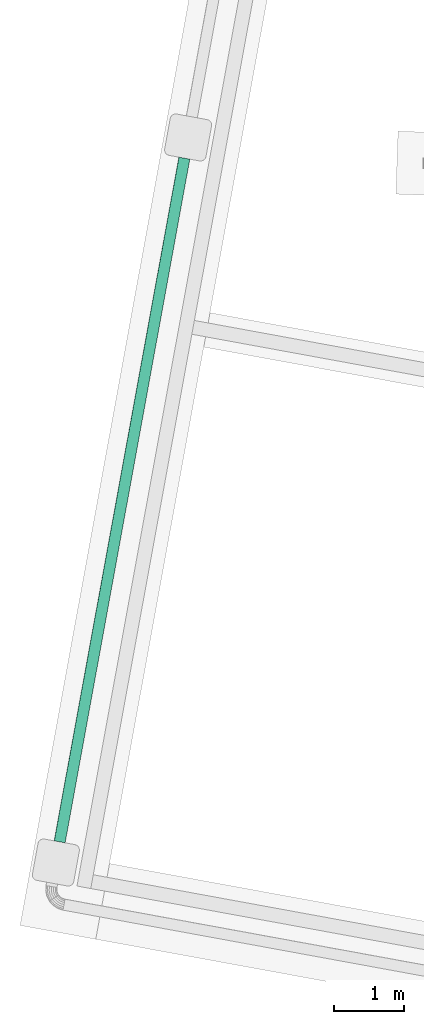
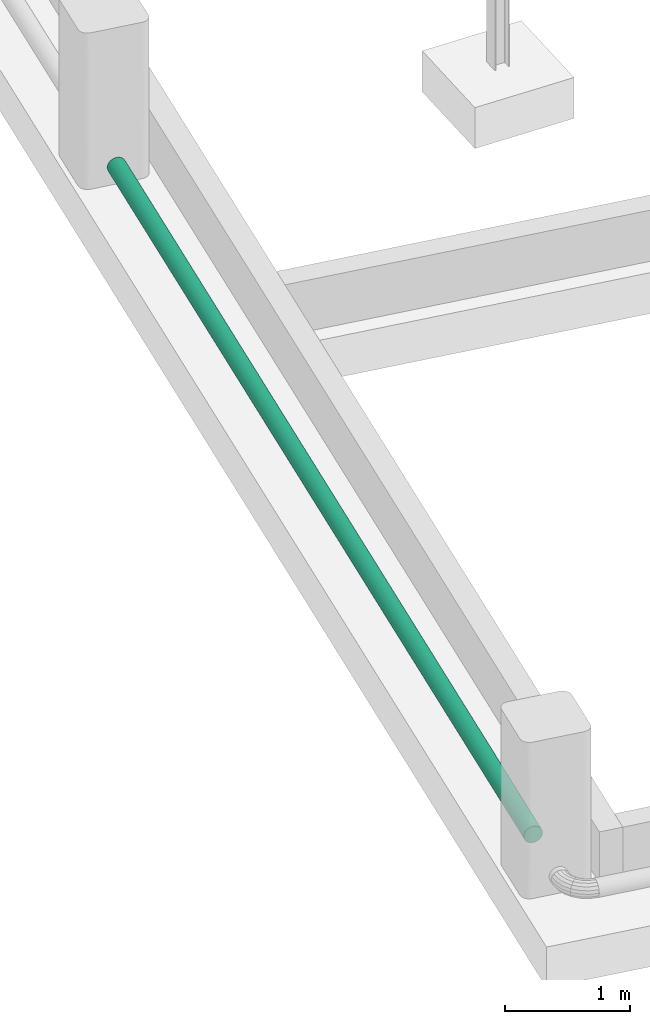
# One storey, part 8 of 17: 1 flow segment.
"""IFC2X3 building model written with IfcOpenShell, lengths in centimetres."""

from ifc_helpers import new_model, entity, si_unit, converted_unit, derived_unit, direction, frame, frame_2d, origin, place, context, subcontext, project, spatial, circle, extrude, type_object, element, save


model = new_model("IFC2X3")

# Units and contexts
model_context = context("Model", 3, precision=0.001, world=origin(), true_north=direction((6.12303176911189e-17, 1.0)))
body_context = subcontext(model_context, "Body", "Model", "MODEL_VIEW")
ifc_project = project(units=[si_unit("LENGTHUNIT", "METRE", prefix="CENTI"), si_unit("AREAUNIT", "SQUARE_METRE"), si_unit("VOLUMEUNIT", "CUBIC_METRE"), converted_unit("PLANEANGLEUNIT", "DEGREE", entity("IfcRatioMeasure", 0.0174532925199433), si_unit("PLANEANGLEUNIT", "RADIAN"), dimensions=[0, 0, 0, 0, 0, 0, 0]), si_unit("MASSUNIT", "GRAM", prefix="KILO"), derived_unit("MASSDENSITYUNIT", [(si_unit("MASSUNIT", "GRAM", prefix="KILO"), 1), (si_unit("LENGTHUNIT", "METRE"), -3)]), si_unit("TIMEUNIT", "SECOND"), si_unit("FREQUENCYUNIT", "HERTZ"), si_unit("THERMODYNAMICTEMPERATUREUNIT", "DEGREE_CELSIUS"), derived_unit("THERMALTRANSMITTANCEUNIT", [(si_unit("MASSUNIT", "GRAM", prefix="KILO"), 1), (si_unit("THERMODYNAMICTEMPERATUREUNIT", "KELVIN"), -1), (si_unit("TIMEUNIT", "SECOND"), -3)]), derived_unit("VOLUMETRICFLOWRATEUNIT", [(si_unit("LENGTHUNIT", "METRE"), 3), (si_unit("TIMEUNIT", "SECOND"), -1)]), si_unit("ELECTRICCURRENTUNIT", "AMPERE"), si_unit("ELECTRICVOLTAGEUNIT", "VOLT"), si_unit("POWERUNIT", "WATT"), si_unit("FORCEUNIT", "NEWTON", prefix="KILO"), si_unit("ILLUMINANCEUNIT", "LUX"), si_unit("LUMINOUSFLUXUNIT", "LUMEN"), si_unit("LUMINOUSINTENSITYUNIT", "CANDELA"), derived_unit("USERDEFINED", [(si_unit("MASSUNIT", "GRAM", prefix="KILO"), -1), (si_unit("LENGTHUNIT", "METRE"), -2), (si_unit("TIMEUNIT", "SECOND"), 3), (si_unit("LUMINOUSFLUXUNIT", "LUMEN"), 1)]), derived_unit("LINEARVELOCITYUNIT", [(si_unit("LENGTHUNIT", "METRE"), 1), (si_unit("TIMEUNIT", "SECOND"), -1)]), si_unit("PRESSUREUNIT", "PASCAL"), derived_unit("USERDEFINED", [(si_unit("LENGTHUNIT", "METRE"), -2), (si_unit("MASSUNIT", "GRAM", prefix="KILO"), 1), (si_unit("TIMEUNIT", "SECOND"), -2)])], contexts=[model_context])

# Site, building, storey
site_placement = place(None, frame((2611.71187422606, 13650.4058644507, 0.0), z_axis=(0.0, 0.0, 1.0), x_axis=(0.0673222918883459, -0.997731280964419, 0.0)))
site = spatial("IfcSite", under=ifc_project, at=site_placement, Name="Surface", CompositionType="ELEMENT")
building_placement = place(site_placement, origin())
building = spatial("IfcBuilding", under=site, at=building_placement, CompositionType="ELEMENT")
storey_placement = place(building_placement, frame((0.0, 0.0, 86950.0)))
storey = spatial("IfcBuildingStorey", under=building, at=storey_placement, Name="-1 Soubassement", CompositionType="ELEMENT", Elevation=86950.0)

# Flow segment
pipe_segment_type = type_object("IfcPipeSegmentType", Name="Canalisation:Canalisation EP", PredefinedType="NOTDEFINED")
flow_segment_placement = place(storey_placement, origin())
element("IfcFlowSegment", 1, at=flow_segment_placement, inside=storey, type_object=pipe_segment_type, Name="Canalisation:Canalisation EP", ObjectType="Canalisation:Canalisation EP", context=body_context, shape_type="SweptSolid", body=[
    extrude(circle(Radius=8.0, at=frame_2d((5.24900456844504e-14, 0.0), x_axis=(1.0, 0.0))), frame((3992.85244249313, -357.848120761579, 18.0), z_axis=(0.969464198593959, -0.245232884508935, 0.0), x_axis=(-0.245232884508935, -0.969464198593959, 0.0)), (0.0, 0.0, 1.0), 992.754713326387),
])

save(model, "model.ifc")
